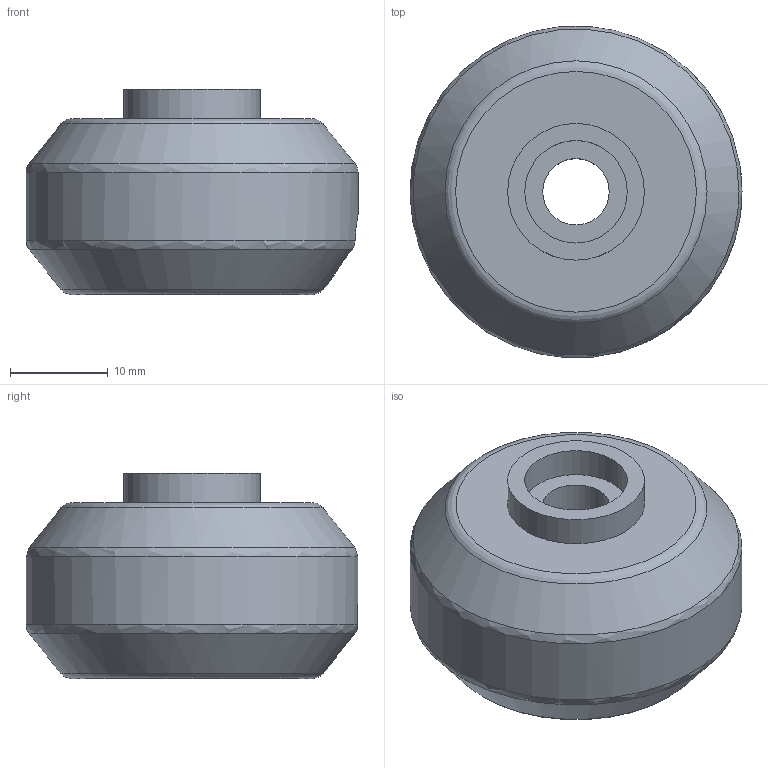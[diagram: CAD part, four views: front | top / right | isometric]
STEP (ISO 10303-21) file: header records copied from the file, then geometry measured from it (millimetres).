
FILE_DESCRIPTION(('Open CASCADE Model'),'2;1');
FILE_NAME('Open CASCADE Shape Model','2026-10-14T14:03:58',('Author'),( 'Open CASCADE'),'Open CASCADE STEP processor 7.8','Open CASCADE 7.8' ,'Unknown');
FILE_SCHEMA(('AUTOMOTIVE_DESIGN { 1 0 10303 214 1 1 1 1 }'));
Length unit declared in the file: millimetre
Products named in the file (1): Open CASCADE STEP translator 7.8 1
Bounding box: 34 x 33.94 x 21 mm (x, y, z)
Volume: 12377.3 mm3; surface area: 4025.5 mm2
Topology: 1 solids, 1 shells, 26 faces, 56 edges, 35 vertices
Faces by surface type: plane 13, cylinder 7, cone 2, torus 2, bspline 2
Full cylindrical faces by diameter (mm): 3.4 x1, 6.4 x1, 6.8 x1, 10.5 x1, 14 x1, 14.5 x1, 34 x1
Entity records: 2084 total; most frequent: CARTESIAN_POINT 938, DIRECTION 208, ORIENTED_EDGE 112, PCURVE 112, DEFINITIONAL_REPRESENTATION 112, LINE 99, VECTOR 99, EDGE_CURVE 56
